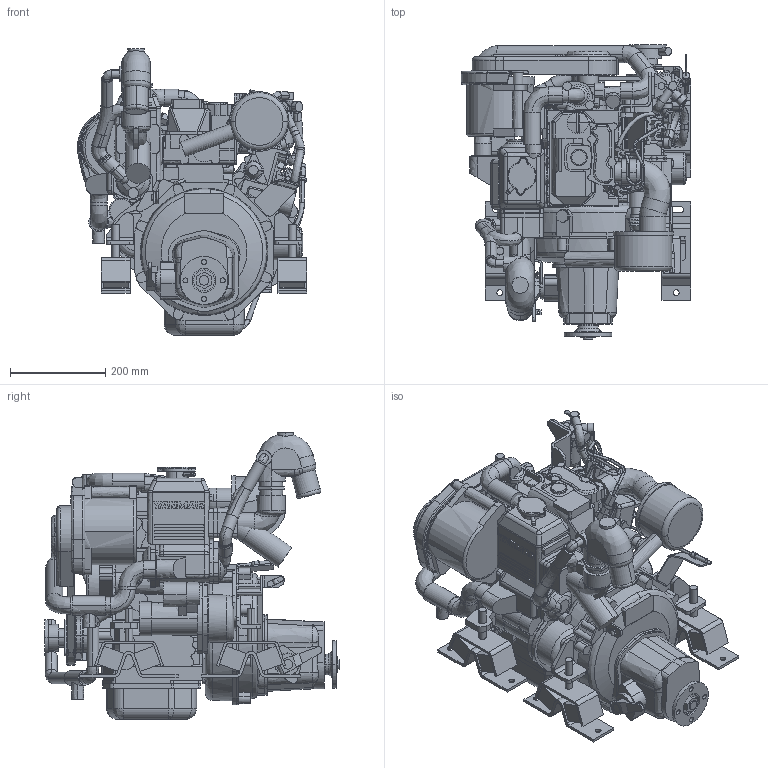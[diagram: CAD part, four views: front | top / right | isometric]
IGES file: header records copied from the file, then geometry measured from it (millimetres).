
Start section: Elysium IGES Interface
Global section: file name: C:\_OH CADenZO\Yanmar\Final Drawings R2009\YM-Serie\2YM-Serie\3D Drawing Workfile\YM_2YM15_KM2P-1_R2010-01.igs; native system: CoCreate Modeling 16.00D  29-May-2009; preprocessor: CoCreate IGES_3D V2.2; author: Unknown; organization: Unknown; date: 20100322.135253; units: millimetre
Bounding box: 480.51 x 616.5 x 600.8 mm (x, y, z)
Volume: 39907764.9 mm3; surface area: 3481699.7 mm2
Topology: 54 solids, 54 shells, 3564 faces, 9556 edges, 6184 vertices
Faces by surface type: bspline 3564
